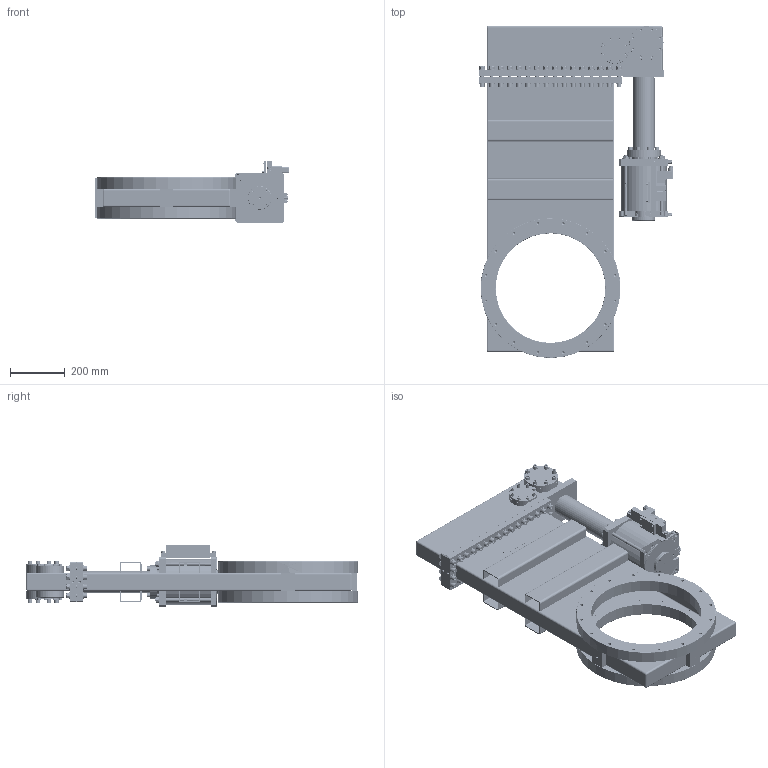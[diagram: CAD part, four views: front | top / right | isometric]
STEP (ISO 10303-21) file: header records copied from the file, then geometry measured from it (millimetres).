
FILE_DESCRIPTION(/* description */ (''),/* implementation_level */ '2;1');
FILE_NAME(/* name */ '1119220592_203.stp',/* time_stamp */ '2013-11-18T13:01:16+01:00',/* author */ (''),/* organization */ (''),/* preprocessor_version */ 'ST-DEVELOPER v11',/* originating_system */ 'SIEMENS PLM Software NX 7.5',/* authorisation */ '');
FILE_SCHEMA (('AP203_CONFIGURATION_CONTROLLED_3D_DESIGN_OF_MECHANICAL_PARTS_AND_ASSEMBLIES_MIM_LF'));
Products named in the file (1): 560891
Bounding box: 710.9 x 1211.54 x 223 mm (x, y, z)
Volume: 17484187.1 mm3; surface area: 4830135.4 mm2
Topology: 317 solids, 318 shells, 3833 faces, 8810 edges, 5771 vertices
Faces by surface type: plane 2273, cylinder 1047, cone 348, bspline 63, extrusion 60, sphere 35, torus 5, revolution 2
Full cylindrical faces by diameter (mm): 1.9 x3, 2.115 x8, 2.5 x10, 3 x4, 3.2 x1, 3.3 x6, 3.5 x10, 4 x8, 4.3 x2, 4.5 x6, 4.825 x3, 5 x3, 5.2 x4, 5.5 x2, 5.7 x3, 6 x4, 6.4 x4, 6.475 x2, 6.8 x24, 7 x1, 7.008 x1, 8 x16, 8.4 x24, 8.5 x16, 8.566 x5, 9 x18, 9.728 x2, 10 x39, 10.3 x38, 10.4 x2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
Entity records: 107143 total; most frequent: CARTESIAN_POINT 25578, DIRECTION 15563, ORIENTED_EDGE 14426, EDGE_CURVE 7213, AXIS2_PLACEMENT_3D 6159, EDGE_LOOP 5971, VERTEX_POINT 5558, FACE_BOUND 4170
